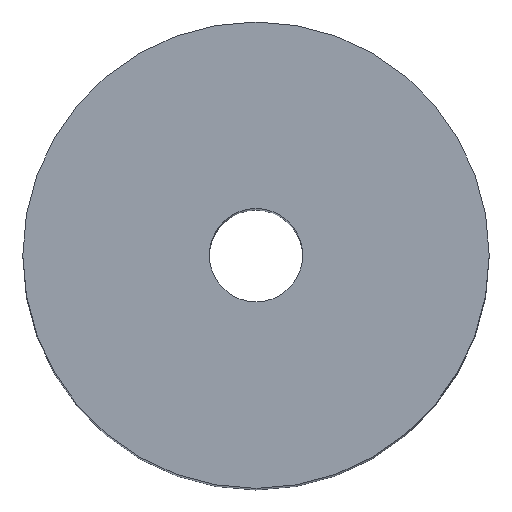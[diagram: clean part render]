
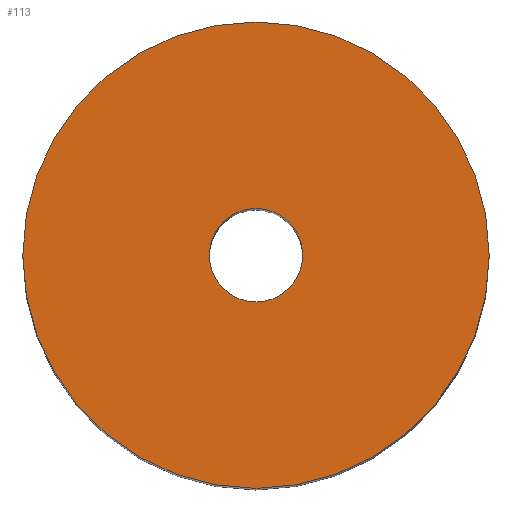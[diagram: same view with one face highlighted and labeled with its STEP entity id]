
A CAD part, top view. The second image highlights one B-rep face of the part: STEP entity #113.
In plain terms, the highlighted planar face has unit normal (0, 0, 1).
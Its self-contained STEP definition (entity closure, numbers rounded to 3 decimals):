
#113=ADVANCED_FACE('',(#121,#122),#119,.T.);
#119=PLANE('',#190);
#121=FACE_BOUND('',#125,.T.);
#122=FACE_BOUND('',#126,.T.);
#125=EDGE_LOOP('',(#133,#134));
#126=EDGE_LOOP('',(#135,#136));
#133=ORIENTED_EDGE('',*,*,#165,.T.);
#134=ORIENTED_EDGE('',*,*,#166,.T.);
#135=ORIENTED_EDGE('',*,*,#167,.F.);
#136=ORIENTED_EDGE('',*,*,#168,.F.);
#157=VERTEX_POINT('',#236);
#158=VERTEX_POINT('',#237);
#159=VERTEX_POINT('',#240);
#160=VERTEX_POINT('',#241);
#165=EDGE_CURVE('',#157,#158,#177,.T.);
#166=EDGE_CURVE('',#158,#157,#178,.T.);
#167=EDGE_CURVE('',#159,#160,#179,.T.);
#168=EDGE_CURVE('',#160,#159,#180,.T.);
#177=CIRCLE('',#186,35.);
#178=CIRCLE('',#187,35.);
#179=CIRCLE('',#188,7.);
#180=CIRCLE('',#189,7.);
#186=AXIS2_PLACEMENT_3D('',#235,#202,#203);
#187=AXIS2_PLACEMENT_3D('',#238,#204,#205);
#188=AXIS2_PLACEMENT_3D('',#239,#206,#207);
#189=AXIS2_PLACEMENT_3D('',#242,#208,#209);
#190=AXIS2_PLACEMENT_3D('',#243,#210,#211);
#202=DIRECTION('',(0.,0.,1.));
#203=DIRECTION('',(0.,1.,0.));
#204=DIRECTION('',(0.,0.,1.));
#205=DIRECTION('',(0.,-1.,0.));
#206=DIRECTION('',(0.,0.,1.));
#207=DIRECTION('',(0.,-1.,0.));
#208=DIRECTION('',(0.,0.,1.));
#209=DIRECTION('',(0.,1.,0.));
#210=DIRECTION('',(0.,0.,1.));
#211=DIRECTION('',(0.,1.,0.));
#235=CARTESIAN_POINT('',(0.,0.,140.));
#236=CARTESIAN_POINT('',(-35.,0.,140.));
#237=CARTESIAN_POINT('',(35.,0.,140.));
#238=CARTESIAN_POINT('',(0.,0.,140.));
#239=CARTESIAN_POINT('',(0.,0.,140.));
#240=CARTESIAN_POINT('',(7.,0.,140.));
#241=CARTESIAN_POINT('',(-7.,0.,140.));
#242=CARTESIAN_POINT('',(0.,0.,140.));
#243=CARTESIAN_POINT('',(0.,0.,140.));
